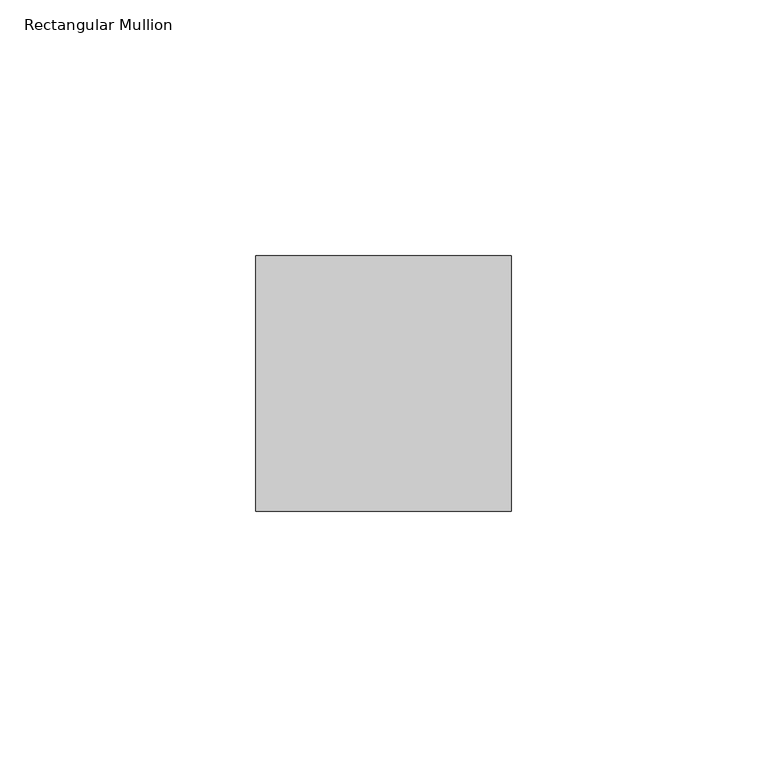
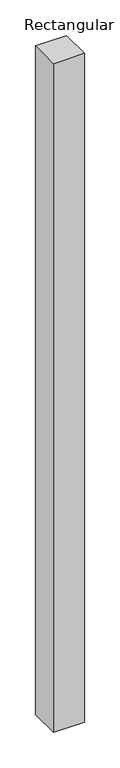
"""IFC4 building model written with IfcOpenShell, lengths in millimetres: member geometry, Rectangular Mullion : Mullion_Curtain Wall_Generic Showcase_50x50mm."""

from ifc_helpers import new_model, si_unit, frame, origin, place, context, project, spatial, polyline, outline, extrude, source, transform, mapped, element, save


def rectangular_mullion_bb8d6ff1(model_context):
    return source(origin(), model_context, "Body", "SweptSolid", [
        extrude(outline(polyline([(0.0, 50.0), (0.0, 0.0), (-50.0, 0.0), (-50.0, 50.0), (0.0, 50.0)])), frame((0.0, 0.0, -1141.6666667), z_axis=(0.0, 0.0, 1.0), x_axis=(1.0, 0.0, 0.0)), (0.0, 0.0, 1.0), 1141.6666667),
    ])


if __name__ == "__main__":
    model = new_model("IFC4")
    model_context = context("Model", 3, world=origin())
    ifc_project = project(units=[si_unit("LENGTHUNIT", "METRE", prefix="MILLI")], contexts=[model_context])
    site = spatial("IfcSite", under=ifc_project)
    building = spatial("IfcBuilding", under=site)
    placement = place(None, origin())
    rectangular_mullion_shape = rectangular_mullion_bb8d6ff1(model_context)
    element("IfcMember", 1, ObjectType="Rectangular Mullion : Mullion_Curtain Wall_Generic Showcase_50x50mm", at=placement, inside=building, context=model_context, shape_type="MappedRepresentation", body=[
        mapped(rectangular_mullion_shape, transform((0.0, 0.0, 0.0), x_axis=(1.0, 0.0, 0.0), y_axis=(0.0, 1.0, 0.0), z_axis=(0.0, 0.0, 1.0))),
    ])
    save(model, "model.ifc")
